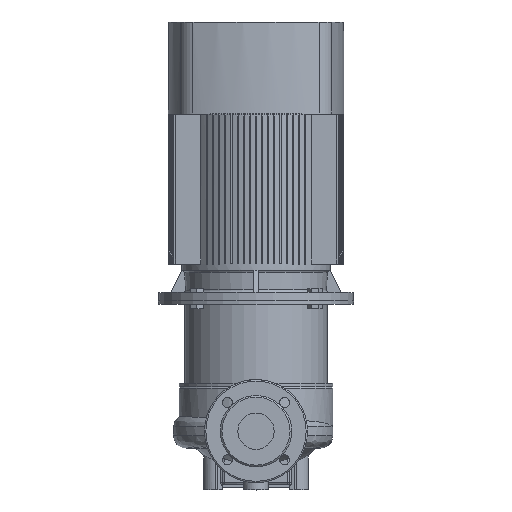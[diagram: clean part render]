
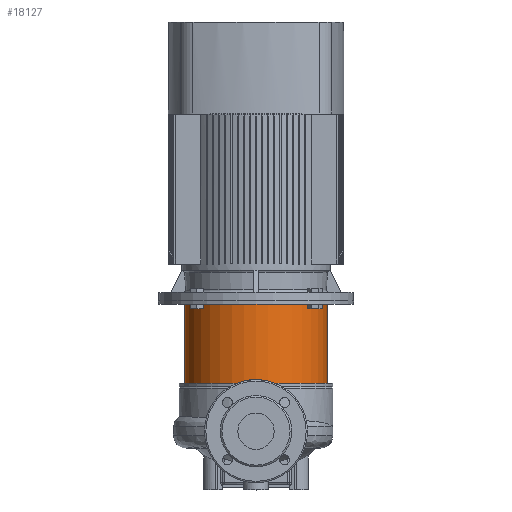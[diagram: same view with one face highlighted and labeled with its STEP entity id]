
A CAD part, top view. The second image highlights one B-rep face of the part: STEP entity #18127.
In plain terms, the highlighted cylindrical face has radius 128 mm (diameter 256 mm), a partial arc.
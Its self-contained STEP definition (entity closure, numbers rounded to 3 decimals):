
#193 = VERTEX_POINT ( 'NONE', #29888 ) ;
#781 = EDGE_CURVE ( 'NONE', #14399, #193, #29440, .T. ) ;
#1788 = CIRCLE ( 'NONE', #18871, 128. ) ;
#2576 = ORIENTED_EDGE ( 'NONE', *, *, #5667, .T. ) ;
#2936 = ORIENTED_EDGE ( 'NONE', *, *, #7126, .T. ) ;
#2972 = CARTESIAN_POINT ( 'NONE',  ( 0., 0., -148. ) ) ;
#3119 = DIRECTION ( 'NONE',  ( 1., 0., 0. ) ) ;
#3456 = CARTESIAN_POINT ( 'NONE',  ( 0., 0., 14.36 ) ) ;
#4135 = VERTEX_POINT ( 'NONE', #11014 ) ;
#4369 = CARTESIAN_POINT ( 'NONE',  ( 128., 0., 14.36 ) ) ;
#4878 = CARTESIAN_POINT ( 'NONE',  ( -128., 0., -6. ) ) ;
#5667 = EDGE_CURVE ( 'NONE', #8191, #193, #26994, .T. ) ;
#5736 = FACE_OUTER_BOUND ( 'NONE', #10251, .T. ) ;
#5740 = DIRECTION ( 'NONE',  ( 0., 0., 1. ) ) ;
#6531 = CARTESIAN_POINT ( 'NONE',  ( 128., 0., -148. ) ) ;
#7126 = EDGE_CURVE ( 'NONE', #4135, #8191, #1788, .T. ) ;
#7881 = LINE ( 'NONE', #14918, #28841 ) ;
#8191 = VERTEX_POINT ( 'NONE', #6531 ) ;
#8272 = ORIENTED_EDGE ( 'NONE', *, *, #9940, .F. ) ;
#9940 = EDGE_CURVE ( 'NONE', #4135, #14399, #7881, .T. ) ;
#10251 = EDGE_LOOP ( 'NONE', ( #8272, #2936, #2576, #10337 ) ) ;
#10337 = ORIENTED_EDGE ( 'NONE', *, *, #781, .F. ) ;
#11014 = CARTESIAN_POINT ( 'NONE',  ( -128., 0., -148. ) ) ;
#12901 = DIRECTION ( 'NONE',  ( 0., 0., 1. ) ) ;
#13341 = AXIS2_PLACEMENT_3D ( 'NONE', #13983, #23595, #23449 ) ;
#13983 = CARTESIAN_POINT ( 'NONE',  ( 0., 0., -6. ) ) ;
#14399 = VERTEX_POINT ( 'NONE', #4878 ) ;
#14651 = VECTOR ( 'NONE', #17680, 1000. ) ;
#14918 = CARTESIAN_POINT ( 'NONE',  ( -128., 0., 14.36 ) ) ;
#15075 = CYLINDRICAL_SURFACE ( 'NONE', #17243, 128. ) ;
#17243 = AXIS2_PLACEMENT_3D ( 'NONE', #3456, #19035, #26058 ) ;
#17680 = DIRECTION ( 'NONE',  ( 0., 0., 1. ) ) ;
#18127 = ADVANCED_FACE ( 'NONE', ( #5736 ), #15075, .T. ) ;
#18871 = AXIS2_PLACEMENT_3D ( 'NONE', #2972, #12901, #3119 ) ;
#19035 = DIRECTION ( 'NONE',  ( 0., 0., 1. ) ) ;
#23449 = DIRECTION ( 'NONE',  ( 1., 0., 0. ) ) ;
#23595 = DIRECTION ( 'NONE',  ( 0., 0., 1. ) ) ;
#26058 = DIRECTION ( 'NONE',  ( 1., 0., 0. ) ) ;
#26994 = LINE ( 'NONE', #4369, #14651 ) ;
#28841 = VECTOR ( 'NONE', #5740, 1000. ) ;
#29440 = CIRCLE ( 'NONE', #13341, 128. ) ;
#29888 = CARTESIAN_POINT ( 'NONE',  ( 128., 0., -6. ) ) ;
